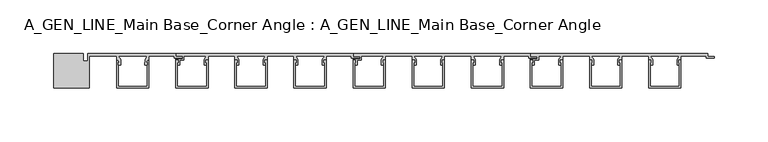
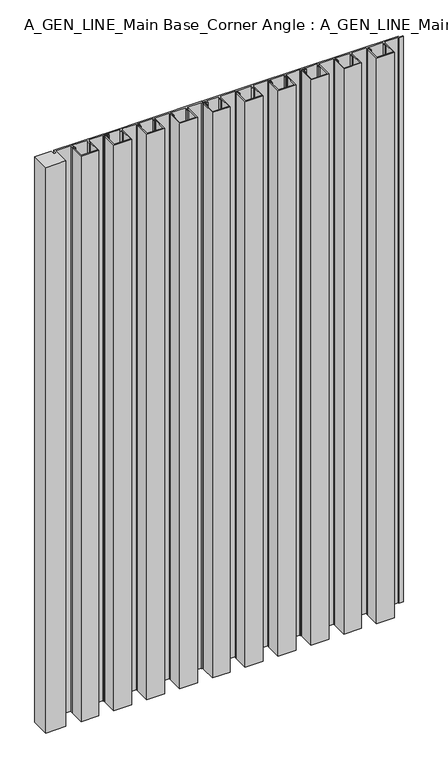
"""IFC4 building model written with IfcOpenShell, lengths in millimetres: proxy geometry, A_GEN_LINE_Main Base_Corner Angle : A_GEN_LINE_Main Base_Corner Angle."""

from ifc_helpers import new_model, si_unit, origin, origin_with_axes, place, context, project, spatial, polyline, outline, extrude, source, transform, mapped, element, save


def a_gen_line_main_base_corner_angle_a_gen_line_main_base_e9d3a1bb(model_context):
    return source(origin(), model_context, "Body", "SweptSolid", [
        extrude(outline(polyline([(-4.3962835, 0.0), (-4.3962835, -7.0005407), (0.0, -7.0005407), (0.0, 0.0), (81.7101997, 0.0), (81.7101997, -2.825696), (87.7101997, -2.825696), (87.7101997, -4.175696), (80.1918447, -4.175696), (80.1918447, -2.4), (56.6880373, -2.4), (56.6880373, -6.1021884), (55.5730639, -6.1021884), (53.9844981, -8.4994005), (55.246432, -8.4994005), (55.246432, -10.4818695), (53.0439059, -10.4818695), (53.0771891, -5.5238337), (55.1472669, -2.4), (28.2330476, -2.4), (30.3031254, -5.5238337), (30.3364086, -10.4818695), (28.1338825, -10.4818695), (28.1338825, -8.4994005), (29.3958164, -8.4994005), (27.8072506, -6.1021884), (26.6922772, -6.1021884), (26.6922772, -2.4), (1.4, -2.4), (1.4, -31.9534606), (-31.8427435, -31.9534606), (-31.8427435, 0.0), (-4.3962835, 0.0)])), origin_with_axes(), (0.0, 0.0, 1.0), 1000.0),
        extrude(outline(polyline([(521.6114482, -32.2007192), (521.6114482, -6.1), (523.7604551, -6.1), (523.7604551, -8.3419727), (523.0114482, -8.5826662), (523.0114482, -30.8007192), (550.2114482, -30.8007192), (550.2114482, -8.5826662), (549.4624412, -8.3419727), (549.4624412, -6.1), (551.6114482, -6.1), (551.6114482, -32.2007192), (521.6114482, -32.2007192)])), origin_with_axes(), (0.0, 0.0, 1.0), 1000.0),
        extrude(outline(polyline([(466.6201936, -32.2007192), (466.6201936, -6.1), (468.7692006, -6.1), (468.7692006, -8.3419727), (468.0201936, -8.5826662), (468.0201936, -30.8007192), (495.2201936, -30.8007192), (495.2201936, -8.5826662), (494.4711866, -8.3419727), (494.4711866, -6.1), (496.6201936, -6.1), (496.6201936, -32.2007192), (466.6201936, -32.2007192)])), origin_with_axes(), (0.0, 0.0, 1.0), 1000.0),
        extrude(outline(polyline([(411.6289391, -32.2007192), (411.6289391, -6.1), (413.777946, -6.1), (413.777946, -8.3419727), (413.0289391, -8.5826662), (413.0289391, -30.8007192), (440.2289391, -30.8007192), (440.2289391, -8.5826662), (439.4799321, -8.3419727), (439.4799321, -6.1), (441.6289391, -6.1), (441.6289391, -32.2007192), (411.6289391, -32.2007192)])), origin_with_axes(), (0.0, 0.0, 1.0), 1000.0),
        extrude(outline(polyline([(356.6376845, -32.2007192), (356.6376845, -6.1), (358.7866915, -6.1), (358.7866915, -8.3419727), (358.0376845, -8.5826662), (358.0376845, -30.8007192), (385.2376845, -30.8007192), (385.2376845, -8.5826662), (384.4886776, -8.3419727), (384.4886776, -6.1), (386.6376845, -6.1), (386.6376845, -32.2007192), (356.6376845, -32.2007192)])), origin_with_axes(), (0.0, 0.0, 1.0), 1000.0),
        extrude(outline(polyline([(301.64643, -32.2007192), (301.64643, -6.1), (303.7954369, -6.1), (303.7954369, -8.3419727), (303.04643, -8.5826662), (303.04643, -30.8007192), (330.24643, -30.8007192), (330.24643, -8.5826662), (329.497423, -8.3419727), (329.497423, -6.1), (331.64643, -6.1), (331.64643, -32.2007192), (301.64643, -32.2007192)])), origin_with_axes(), (0.0, 0.0, 1.0), 1000.0),
        extrude(outline(polyline([(246.6551754, -32.2007192), (246.6551754, -6.1), (248.8041824, -6.1), (248.8041824, -8.3419727), (248.0551754, -8.5826662), (248.0551754, -30.8007192), (275.2551754, -30.8007192), (275.2551754, -8.5826662), (274.5061685, -8.3419727), (274.5061685, -6.1), (276.6551754, -6.1), (276.6551754, -32.2007192), (246.6551754, -32.2007192)])), origin_with_axes(), (0.0, 0.0, 1.0), 1000.0),
        extrude(outline(polyline([(191.6639209, -32.2007192), (191.6639209, -6.1), (193.8129278, -6.1), (193.8129278, -8.3419727), (193.0639209, -8.5826662), (193.0639209, -30.8007192), (220.2639209, -30.8007192), (220.2639209, -8.5826662), (219.5149139, -8.3419727), (219.5149139, -6.1), (221.6639209, -6.1), (221.6639209, -32.2007192), (191.6639209, -32.2007192)])), origin_with_axes(), (0.0, 0.0, 1.0), 1000.0),
        extrude(outline(polyline([(136.6726663, -32.2007192), (136.6726663, -6.1), (138.8216733, -6.1), (138.8216733, -8.3419727), (138.0726663, -8.5826662), (138.0726663, -30.8007192), (165.2726663, -30.8007192), (165.2726663, -8.5826662), (164.5236594, -8.3419727), (164.5236594, -6.1), (166.6726663, -6.1), (166.6726663, -32.2007192), (136.6726663, -32.2007192)])), origin_with_axes(), (0.0, 0.0, 1.0), 1000.0),
        extrude(outline(polyline([(81.6814118, -32.2007192), (81.6814118, -6.1), (83.8304188, -6.1), (83.8304188, -8.3419727), (83.0814118, -8.5826662), (83.0814118, -30.8007192), (110.2814118, -30.8007192), (110.2814118, -8.5826662), (109.5324048, -8.3419727), (109.5324048, -6.1), (111.6814118, -6.1), (111.6814118, -32.2007192), (81.6814118, -32.2007192)])), origin_with_axes(), (0.0, 0.0, 1.0), 1000.0),
        extrude(outline(polyline([(26.6901573, -32.2007192), (26.6901573, -6.1), (28.8391642, -6.1), (28.8391642, -8.3419727), (28.0901573, -8.5826662), (28.0901573, -30.8007192), (55.2901573, -30.8007192), (55.2901573, -8.5826662), (54.5411503, -8.3419727), (54.5411503, -6.1), (56.6901573, -6.1), (56.6901573, -32.2007192), (26.6901573, -32.2007192)])), origin_with_axes(), (0.0, 0.0, 1.0), 1000.0),
        extrude(outline(polyline([(412.0964399, 0.0), (576.6725487, 0.0), (576.6725487, -2.85), (582.6725487, -2.85), (582.6725487, -4.2), (575.1541936, -4.2), (575.1541936, -2.4), (551.6846262, -2.4), (551.6846262, -6.1021884), (550.5696527, -6.1021884), (548.9810869, -8.4994005), (550.2430208, -8.4994005), (550.2430208, -10.4818695), (548.0404948, -10.4818695), (548.073778, -5.5238337), (550.1438558, -2.4), (523.2274208, -2.4), (525.326542, -5.6343123), (525.326542, -10.4818695), (523.1240159, -10.4818695), (523.1240159, -8.4994005), (524.3859498, -8.4994005), (522.797384, -6.1021884), (521.6824106, -6.1021884), (521.6824106, -2.4), (496.6819112, -2.4), (496.6819112, -6.1021884), (495.5669377, -6.1021884), (493.9783719, -8.4994005), (495.2403058, -8.4994005), (495.2403058, -10.4818695), (493.0377798, -10.4818695), (493.0377798, -5.5740595), (495.1411408, -2.4), (468.2269214, -2.4), (470.3260426, -5.6343123), (470.3260426, -10.4818695), (468.1235165, -10.4818695), (468.1235165, -8.4994005), (469.3854504, -8.4994005), (467.7968846, -6.1021884), (466.6819112, -6.1021884), (466.6819112, -2.4), (441.6814118, -2.4), (441.6814118, -6.1021884), (440.5664384, -6.1021884), (438.9778726, -8.4994005), (440.2398065, -8.4994005), (440.2398065, -10.4818695), (438.0372804, -10.4818695), (438.0372804, -5.6343123), (440.1364015, -2.4), (419.3159926, -2.4), (419.3159926, -6.1), (415.3255432, -6.1), (415.3255432, -10.4818695), (413.1230171, -10.4818695), (413.1230171, -8.4994005), (414.384951, -8.4994005), (412.7963852, -6.1021884), (411.7101997, -6.1021884), (411.7101997, -4.9), (418.1159926, -4.9), (418.1159926, -2.7), (412.0964399, -2.7), (412.0964399, 0.0)])), origin_with_axes(), (0.0, 0.0, 1.0), 1000.0),
        extrude(outline(polyline([(247.0964399, 0.0), (411.6725487, 0.0), (411.6725487, -2.85), (417.6725487, -2.85), (417.6725487, -4.2), (410.1541936, -4.2), (410.1541936, -2.4), (386.6846262, -2.4), (386.6846262, -6.1021884), (385.5696527, -6.1021884), (383.9810869, -8.4994005), (385.2430208, -8.4994005), (385.2430208, -10.4818695), (383.0404948, -10.4818695), (383.073778, -5.5238337), (385.1438558, -2.4), (358.2274208, -2.4), (360.326542, -5.6343123), (360.326542, -10.4818695), (358.1240159, -10.4818695), (358.1240159, -8.4994005), (359.3859498, -8.4994005), (357.797384, -6.1021884), (356.6824106, -6.1021884), (356.6824106, -2.4), (331.6819112, -2.4), (331.6819112, -6.1021884), (330.5669377, -6.1021884), (328.9783719, -8.4994005), (330.2403058, -8.4994005), (330.2403058, -10.4818695), (328.0377798, -10.4818695), (328.0377798, -5.5740595), (330.1411408, -2.4), (303.2269214, -2.4), (305.3260426, -5.6343123), (305.3260426, -10.4818695), (303.1235165, -10.4818695), (303.1235165, -8.4994005), (304.3854504, -8.4994005), (302.7968846, -6.1021884), (301.6819112, -6.1021884), (301.6819112, -2.4), (276.6814118, -2.4), (276.6814118, -6.1021884), (275.5664384, -6.1021884), (273.9778726, -8.4994005), (275.2398065, -8.4994005), (275.2398065, -10.4818695), (273.0372804, -10.4818695), (273.0372804, -5.6343123), (275.1364015, -2.4), (254.3159926, -2.4), (254.3159926, -6.1), (250.3255432, -6.1), (250.3255432, -10.4818695), (248.1230171, -10.4818695), (248.1230171, -8.4994005), (249.384951, -8.4994005), (247.7963852, -6.1021884), (246.7101997, -6.1021884), (246.7101997, -4.9), (253.1159926, -4.9), (253.1159926, -2.7), (247.0964399, -2.7), (247.0964399, 0.0)])), origin_with_axes(), (0.0, 0.0, 1.0), 1000.0),
        extrude(outline(polyline([(82.0964399, 0.0), (246.6725487, 0.0), (246.6725487, -2.85), (252.6725487, -2.85), (252.6725487, -4.2), (245.1541936, -4.2), (245.1541936, -2.4), (221.6846262, -2.4), (221.6846262, -6.1021884), (220.5696527, -6.1021884), (218.9810869, -8.4994005), (220.2430208, -8.4994005), (220.2430208, -10.4818695), (218.0404948, -10.4818695), (218.073778, -5.5238337), (220.1438558, -2.4), (193.2274208, -2.4), (195.326542, -5.6343123), (195.326542, -10.4818695), (193.1240159, -10.4818695), (193.1240159, -8.4994005), (194.3859498, -8.4994005), (192.797384, -6.1021884), (191.6824106, -6.1021884), (191.6824106, -2.4), (166.6819112, -2.4), (166.6819112, -6.1021884), (165.5669377, -6.1021884), (163.9783719, -8.4994005), (165.2403058, -8.4994005), (165.2403058, -10.4818695), (163.0377798, -10.4818695), (163.0377798, -5.5740595), (165.1411408, -2.4), (138.2269214, -2.4), (140.3260426, -5.6343123), (140.3260426, -10.4818695), (138.1235165, -10.4818695), (138.1235165, -8.4994005), (139.3854504, -8.4994005), (137.7968846, -6.1021884), (136.6819112, -6.1021884), (136.6819112, -2.4), (111.6814118, -2.4), (111.6814118, -6.1021884), (110.5664384, -6.1021884), (108.9778726, -8.4994005), (110.2398065, -8.4994005), (110.2398065, -10.4818695), (108.0372804, -10.4818695), (108.0372804, -5.6343123), (110.1364015, -2.4), (89.3159926, -2.4), (89.3159926, -6.1), (85.3255432, -6.1), (85.3255432, -10.4818695), (83.1230171, -10.4818695), (83.1230171, -8.4994005), (84.384951, -8.4994005), (82.7963852, -6.1021884), (81.7101997, -6.1021884), (81.7101997, -4.9), (88.1159926, -4.9), (88.1159926, -2.7), (82.0964399, -2.7), (82.0964399, 0.0)])), origin_with_axes(), (0.0, 0.0, 1.0), 1000.0),
    ])


if __name__ == "__main__":
    model = new_model("IFC4")
    model_context = context("Model", 3, world=origin())
    ifc_project = project(units=[si_unit("LENGTHUNIT", "METRE", prefix="MILLI")], contexts=[model_context])
    site = spatial("IfcSite", under=ifc_project)
    building = spatial("IfcBuilding", under=site)
    placement = place(None, origin())
    a_gen_line_main_base_corner_angle_a_gen_line_main_base_shape = a_gen_line_main_base_corner_angle_a_gen_line_main_base_e9d3a1bb(model_context)
    element("IfcBuildingElementProxy", 1, Name="A_GEN_LINE_Main Base_Corner Angle : A_GEN_LINE_Main Base_Corner Angle", ObjectType="A_GEN_LINE_Main Base_Corner Angle : A_GEN_LINE_Main Base_Corner Angle", at=placement, inside=building, context=model_context, shape_type="MappedRepresentation", body=[
        mapped(a_gen_line_main_base_corner_angle_a_gen_line_main_base_shape, transform((0.0, 0.0, 0.0), x_axis=(1.0, 0.0, 0.0), y_axis=(0.0, 1.0, 0.0), z_axis=(0.0, 0.0, 1.0))),
    ])
    save(model, "model.ifc")
